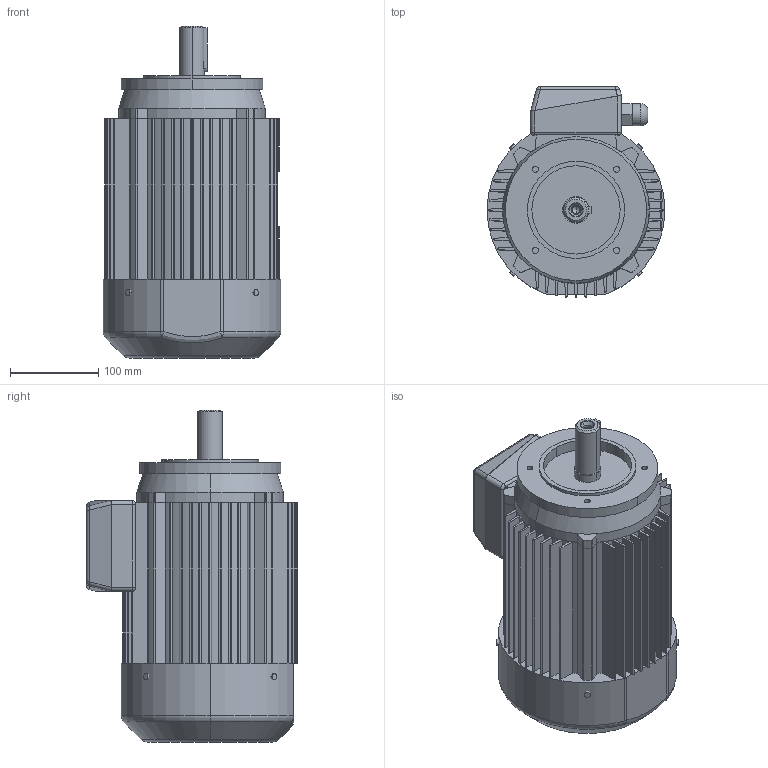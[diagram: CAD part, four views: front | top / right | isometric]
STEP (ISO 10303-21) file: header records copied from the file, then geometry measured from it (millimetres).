
FILE_DESCRIPTION (( 'STEP AP203' ), '1' );
FILE_NAME ('SKg 100L-B14-C2.STEP', '2010-02-09T12:31:48', ( 'INDUKTA' ), ( 'CANTONI MOTOR' ), 'SwSTEP 2.0', 'SolidWorks 2003064', '' );
FILE_SCHEMA (( 'CONFIG_CONTROL_DESIGN' ));
Length unit declared in the file: millimetre
Products named in the file (1): SKg 100L-B14-C2
Bounding box: 201.5 x 239 x 376 mm (x, y, z)
Volume: 8487336.3 mm3; surface area: 581192.5 mm2
Topology: 11 solids, 11 shells, 507 faces, 1345 edges, 870 vertices
Faces by surface type: plane 244, cylinder 189, bspline 43, cone 14, torus 11, sphere 6
Entity records: 19077 total; most frequent: CARTESIAN_POINT 6505, ORIENTED_EDGE 2674, DIRECTION 2537, EDGE_CURVE 1337, VERTEX_POINT 870, AXIS2_PLACEMENT_3D 856, VECTOR 825, LINE 825
